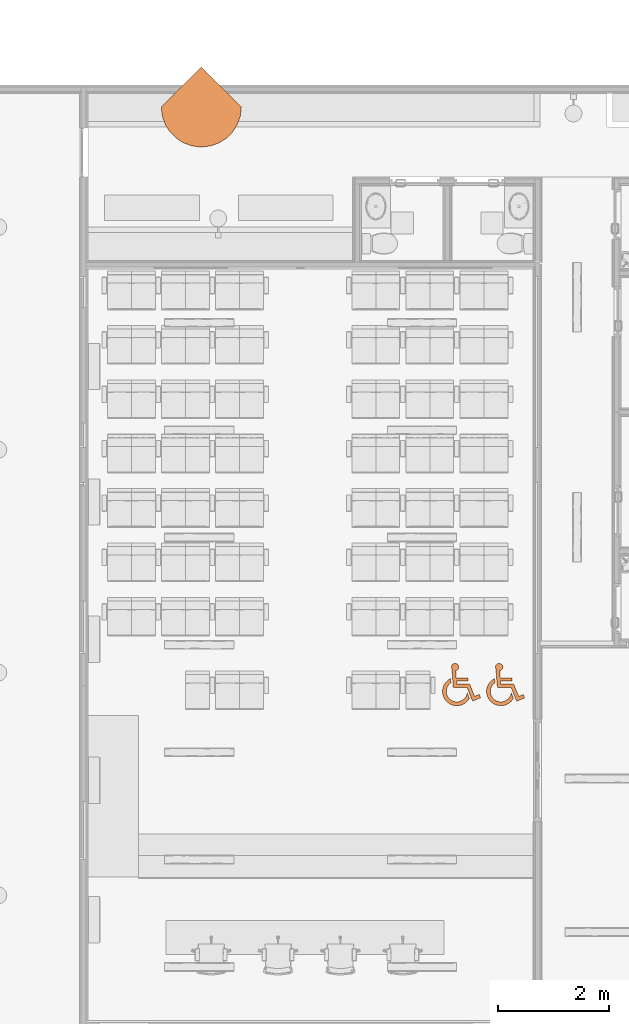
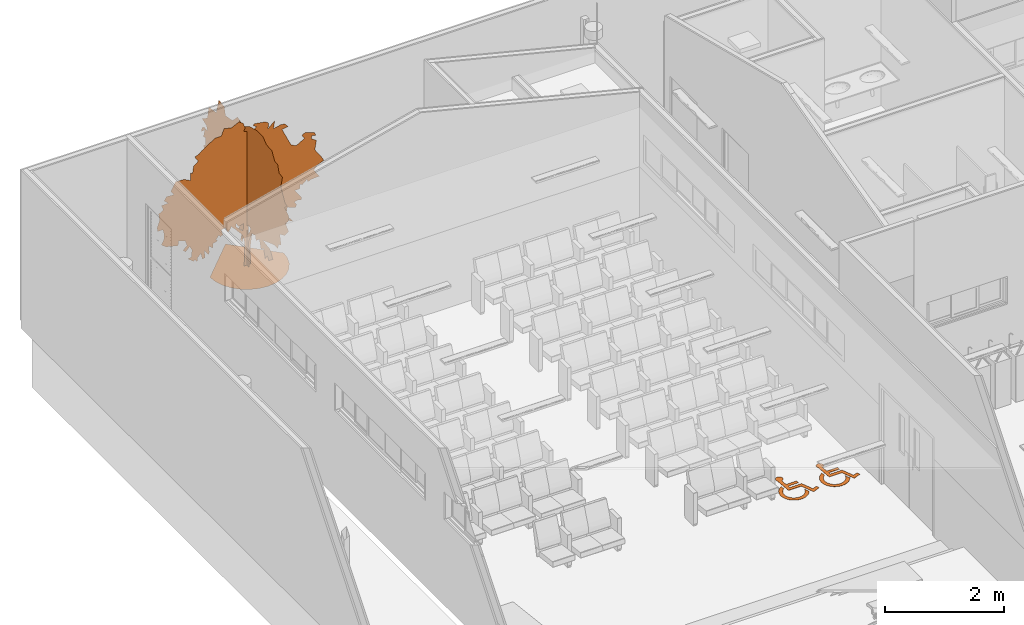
# One storey, part 154 of 155: 3 proxies.
"""IFC2X3 building model written with IfcOpenShell, lengths in metres."""

from ifc_helpers import new_model, entity, si_unit, converted_unit, derived_unit, direction, frame, frame_2d, origin, place, context, subcontext, project, spatial, polyline, circle_curve, parameter, trimmed, segment, composite_curve, outline, extrude, face_set, surface_model, source, transform, mapped, material, type_object, type_shapes, element, save


model = new_model("IFC2X3")

# Units and contexts
model_context = context("Model", 3, precision=1e-05, world=origin(), true_north=direction((6.12303176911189e-17, 1.0)))
body_context = subcontext(model_context, "Body", "Model", "MODEL_VIEW")
ifc_project = project(units=[si_unit("LENGTHUNIT", "METRE"), si_unit("AREAUNIT", "SQUARE_METRE"), si_unit("VOLUMEUNIT", "CUBIC_METRE"), converted_unit("PLANEANGLEUNIT", "DEGREE", entity("IfcRatioMeasure", 0.0174532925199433), si_unit("PLANEANGLEUNIT", "RADIAN"), dimensions=[0, 0, 0, 0, 0, 0, 0]), si_unit("MASSUNIT", "GRAM", prefix="KILO"), derived_unit("MASSDENSITYUNIT", [(si_unit("MASSUNIT", "GRAM", prefix="KILO"), 1), (si_unit("LENGTHUNIT", "METRE"), -3)]), si_unit("TIMEUNIT", "SECOND"), si_unit("FREQUENCYUNIT", "HERTZ"), si_unit("THERMODYNAMICTEMPERATUREUNIT", "DEGREE_CELSIUS"), derived_unit("THERMALTRANSMITTANCEUNIT", [(si_unit("MASSUNIT", "GRAM", prefix="KILO"), 1), (si_unit("THERMODYNAMICTEMPERATUREUNIT", "KELVIN"), -1), (si_unit("TIMEUNIT", "SECOND"), -3)]), derived_unit("VOLUMETRICFLOWRATEUNIT", [(si_unit("LENGTHUNIT", "METRE"), 3), (si_unit("TIMEUNIT", "SECOND"), -1)]), si_unit("ELECTRICCURRENTUNIT", "AMPERE"), si_unit("ELECTRICVOLTAGEUNIT", "VOLT"), si_unit("POWERUNIT", "WATT"), si_unit("FORCEUNIT", "NEWTON", prefix="KILO"), si_unit("ILLUMINANCEUNIT", "LUX"), si_unit("LUMINOUSFLUXUNIT", "LUMEN"), si_unit("LUMINOUSINTENSITYUNIT", "CANDELA"), derived_unit("USERDEFINED", [(si_unit("MASSUNIT", "GRAM", prefix="KILO"), -1), (si_unit("LENGTHUNIT", "METRE"), -2), (si_unit("TIMEUNIT", "SECOND"), 3), (si_unit("LUMINOUSFLUXUNIT", "LUMEN"), 1)]), derived_unit("LINEARVELOCITYUNIT", [(si_unit("LENGTHUNIT", "METRE"), 1), (si_unit("TIMEUNIT", "SECOND"), -1)]), si_unit("PRESSUREUNIT", "PASCAL"), derived_unit("USERDEFINED", [(si_unit("LENGTHUNIT", "METRE"), -2), (si_unit("MASSUNIT", "GRAM", prefix="KILO"), 1), (si_unit("TIMEUNIT", "SECOND"), -2)])], contexts=[model_context])

# Site, building, storey
site_placement = place(None, frame((26.9889013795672, -17.5624287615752, 0.0)))
site = spatial("IfcSite", under=ifc_project, at=site_placement, Name="Default", CompositionType="ELEMENT")
building_placement = place(site_placement, origin())
building = spatial("IfcBuilding", under=site, at=building_placement, Name="C. C. L. Monsenhor Antônio Sampaio", CompositionType="ELEMENT")
storey_placement = place(building_placement, frame((0.0, 0.0, 1.19999999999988)))
storey = spatial("IfcBuildingStorey", under=building, at=storey_placement, Name="Nível 1.2", CompositionType="ELEMENT", Elevation=1.19999999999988)

# Proxy
building_element_proxy_type = type_object("IfcBuildingElementProxyType", Name="Árvore menor - 3 metros", PredefinedType="NOTDEFINED")
shared_shape_1 = source(origin(), body_context, "Body", "SurfaceModel", [
    surface_model("IfcFaceBasedSurfaceModel", [(0.719553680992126, 6.28882015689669e-08, 5.41456997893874e-08), (0.000196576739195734, 0.719357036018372, 5.41456997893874e-08), (-0.719160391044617, 0.0, 5.41456997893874e-08), (0.700535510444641, -0.164828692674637, 5.41456997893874e-08), (-0.700142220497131, -0.164828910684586, 5.41456997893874e-08), (0.646374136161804, -0.316197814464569, 5.41456997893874e-08), (-0.645980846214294, -0.316197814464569, 5.41456997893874e-08), (-0.561012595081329, -0.44977058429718, 5.41456997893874e-08), (0.561405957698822, -0.44977058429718, 5.41456997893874e-08), (0.449967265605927, -0.561209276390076, 5.41456997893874e-08), (-0.449573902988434, -0.561209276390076, 5.41456997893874e-08), (-0.316001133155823, -0.646177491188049, 5.41456997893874e-08), (-0.164632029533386, -0.700338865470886, 5.41456997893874e-08), (0.000196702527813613, -0.719357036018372, 5.41456997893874e-08), (0.165025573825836, -0.700338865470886, 5.41456997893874e-08), (0.316394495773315, -0.646177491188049, 5.41456997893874e-08), (0.000196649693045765, -0.0301486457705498, 0.643486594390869), (0.000196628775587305, -0.0689838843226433, 4.2996833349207e-08), (0.000196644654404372, -0.0651004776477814, 0.526979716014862), (0.000196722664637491, 1.46502089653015, 0.849313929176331), (0.000196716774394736, 1.41065270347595, 0.732807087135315), (0.000196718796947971, 1.40676863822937, 0.80659575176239), (0.000196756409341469, 1.50774139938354, 1.91729387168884), (0.00019675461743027, 1.53492549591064, 1.81632111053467), (0.000196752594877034, 1.41453458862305, 1.92894374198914), (0.00019675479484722, 1.43783680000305, 1.96778017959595), (0.000196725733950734, 1.3057958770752, 1.19106857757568), (0.000196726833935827, 1.45725509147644, 1.00077307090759), (0.000196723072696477, 1.36016639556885, 1.02019121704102), (0.000196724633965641, 1.44172086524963, 0.950286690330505), (0.000196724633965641, 1.5193914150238, 0.83377984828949), (0.000196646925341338, -0.162189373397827, 0.748341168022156), (0.000196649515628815, -0.111703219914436, 0.759993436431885), (0.000196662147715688, 0.230050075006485, 0.670670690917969), (0.000196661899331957, 0.28442053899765, 0.581350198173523), (0.000196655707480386, 0.109660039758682, 0.635718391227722), (0.000196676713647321, 0.587336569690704, 0.624068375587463), (0.000196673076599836, 0.544618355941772, 0.56581382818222), (0.000196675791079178, 0.517434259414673, 0.697854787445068), (0.000196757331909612, 1.32909590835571, 2.21632576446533), (0.000196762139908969, 1.51162328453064, 2.1037029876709), (0.000196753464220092, 1.35628233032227, 2.04545072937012), (0.000196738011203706, 1.5465755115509, 1.24155488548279), (0.000196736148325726, 1.56210959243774, 1.15611627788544), (0.000196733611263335, 1.47667323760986, 1.19883445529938), (0.000196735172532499, 1.47278917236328, 1.25708911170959), (0.000196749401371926, 1.32521402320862, 1.9561279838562), (0.000196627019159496, -0.566079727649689, 0.68620477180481), (0.000196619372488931, -0.62045020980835, 0.511445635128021), (0.00019661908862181, -0.694236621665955, 0.612418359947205), (0.000196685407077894, 0.820350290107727, 0.56581382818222), (0.000196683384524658, 0.83976843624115, 0.468725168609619), (0.000196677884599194, 0.665009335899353, 0.546397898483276), (0.000196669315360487, 0.354325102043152, 0.725041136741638), (0.000196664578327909, 0.299954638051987, 0.647370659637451), (0.000196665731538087, 0.261118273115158, 0.744459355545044), (0.000196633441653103, -1.26900262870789, 1.9561279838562), (0.000196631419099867, -1.36609132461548, 2.03379838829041), (0.000196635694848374, -1.28842092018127, 2.06098481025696), (0.000196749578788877, 1.46113683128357, 1.75806652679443), (0.00019674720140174, 1.39511629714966, 1.77748467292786), (0.000196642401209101, -0.286463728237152, 0.783293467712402), (0.000196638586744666, -0.309763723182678, 0.690088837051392), (0.000196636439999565, -0.422388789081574, 0.787177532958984), (0.000196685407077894, 0.781516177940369, 0.624068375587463), (0.00019665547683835, 0.171796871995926, 0.534745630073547), (0.000196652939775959, 0.218399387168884, 0.379404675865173), (0.000196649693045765, 0.140728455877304, 0.387170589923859), (0.000196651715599, 0.129077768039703, 0.472609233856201), (0.000196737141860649, 1.41841865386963, 1.40466411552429), (0.000196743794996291, 1.53104143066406, 1.45903230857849), (0.000196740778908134, 1.53880956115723, 1.34640953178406), (0.000196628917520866, -0.476756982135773, 0.616300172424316), (0.000196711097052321, 1.14657085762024, 0.938636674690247), (0.000196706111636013, 1.13103445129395, 0.794945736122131), (0.000196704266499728, 1.0688980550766, 0.826013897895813), (0.000196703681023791, 0.998993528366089, 0.911452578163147), (0.000196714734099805, 1.29802774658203, 0.83377984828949), (0.000196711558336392, 1.25530956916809, 0.791061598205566), (0.000196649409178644, -1.14472990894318, 2.30565984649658), (0.000196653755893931, -1.20298223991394, 2.53865986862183), (0.00019665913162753, -1.09035946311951, 2.55031904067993), (0.000196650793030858, 0.0824750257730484, 0.511445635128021), (0.000196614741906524, -0.744723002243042, 0.542513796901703), (0.000196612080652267, -0.876763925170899, 0.651252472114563), (0.000196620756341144, -0.783559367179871, 0.802711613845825), (0.000196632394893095, -0.546661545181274, 0.837663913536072), (0.00019663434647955, 0.0552902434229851, 4.67004684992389e-08), (0.000196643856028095, 0.0358722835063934, 0.3483364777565), (0.000196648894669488, 0.0397559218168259, 0.511445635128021), (0.000196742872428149, 1.39900050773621, 1.62602560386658), (0.000196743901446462, 1.46113683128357, 1.56777320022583), (0.000196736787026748, 1.36404813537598, 1.47456638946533), (0.000196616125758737, -1.27288683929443, 1.38136175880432), (0.000196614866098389, -1.41269589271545, 1.54835505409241), (0.000196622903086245, -1.30007093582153, 1.64932781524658), (0.000196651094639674, -0.123353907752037, 0.829895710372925), (0.00019674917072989, 0.758213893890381, 2.79886462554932), (0.000196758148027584, 0.940741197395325, 2.82604639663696), (0.000196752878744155, 1.03006394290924, 2.51536448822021), (0.000196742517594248, 0.715495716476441, 2.63963713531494), (0.000196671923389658, 0.466947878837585, 0.643486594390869), (0.000196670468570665, 0.408693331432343, 0.682320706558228), (0.000196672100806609, 0.416461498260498, 0.725041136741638), (0.000196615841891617, -1.07482538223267, 1.07456173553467), (0.00019661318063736, -1.16026398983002, 1.11339584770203), (0.00019662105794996, -1.11366174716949, 1.3075754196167), (0.000196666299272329, -1.03598894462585, 2.70954624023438), (0.000196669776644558, -0.950552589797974, 2.6978873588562), (0.000196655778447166, -0.0029635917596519, 0.80659575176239), (0.000196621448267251, -1.38939368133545, 1.73476649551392), (0.00019662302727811, -1.43211185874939, 1.85127333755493), (0.000196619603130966, -0.923366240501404, 0.973588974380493), (0.000196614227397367, -1.043757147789, 0.973588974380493), (0.000196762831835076, 1.27860945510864, 2.47652354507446), (0.000196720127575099, 0.121310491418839, 2.77943267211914), (0.000196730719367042, 0.30383873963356, 2.86100094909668), (0.00019673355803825, 0.48636380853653, 2.68236446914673), (0.000196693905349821, 0.855302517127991, 0.798827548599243), (0.000196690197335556, 0.863070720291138, 0.662904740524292), (0.000196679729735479, -0.841811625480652, 2.86877373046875), (0.000196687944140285, -0.66316838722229, 2.87652354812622), (0.000196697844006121, 0.894138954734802, 0.872616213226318), (0.000196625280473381, -0.760257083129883, 0.919218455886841), (0.000196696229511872, -0.542777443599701, 2.97361471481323), (0.000196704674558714, -0.356366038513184, 2.97750110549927), (0.000196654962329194, -0.0573334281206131, 0.86096619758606), (0.000196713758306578, -0.11170299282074, 2.91536449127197), (-0.0506033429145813, 7.76747955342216e-08, 0.0), (0.0350266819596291, 2.71163724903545e-08, 0.785434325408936), (0.0291209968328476, 3.77584202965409e-08, 0.611220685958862), (-0.0476503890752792, 6.66338866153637e-08, 0.18307096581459), (-0.0446976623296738, 4.78491046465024e-08, 0.496063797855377), (0.0409321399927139, 4.0234105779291e-08, 0.561022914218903), (0.7643582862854, -3.35572835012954e-09, 0.761811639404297), (0.906090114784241, 1.18483896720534e-09, 0.581693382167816), (0.785026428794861, 2.42872803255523e-09, 0.649607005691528), (0.743687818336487, 1.46195725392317e-08, 0.475393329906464), (0.717112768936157, 9.26927548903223e-09, 0.584645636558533), (-0.0830835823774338, 4.03750127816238e-08, 0.649607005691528), (-0.0801308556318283, 3.53179669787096e-08, 0.732284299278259), (0.0527432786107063, 2.40540978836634e-08, 0.823818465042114), (-0.0594615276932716, 3.07186469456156e-08, 0.79429119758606), (0.350971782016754, 1.57699369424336e-08, 0.744095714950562), (0.312585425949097, 2.2199781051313e-08, 0.664370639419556), (0.283058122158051, 1.57465730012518e-08, 0.79429119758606), (0.412980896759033, -1.01339124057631e-07, 2.66338713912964), (0.542901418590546, -1.14058221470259e-07, 2.78150085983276), (0.519278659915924, -1.0369776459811e-07, 2.62500081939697), (-0.201194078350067, 3.72659193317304e-08, 0.788386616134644), (-0.213005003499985, 3.33822835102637e-08, 0.862204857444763), (-0.301587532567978, 3.51422847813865e-08, 0.897638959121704), (-0.957099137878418, 8.82593452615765e-08, 0.487204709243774), (-0.965958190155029, 9.35745769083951e-08, 0.404527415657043), (-1.01024916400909, 9.1990714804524e-08, 0.463581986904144), (-0.661823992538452, 6.44407038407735e-08, 0.670275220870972), (-0.652964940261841, 6.95093406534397e-08, 0.578741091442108), (-0.732689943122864, 6.92982032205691e-08, 0.640747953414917), (-0.729737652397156, 7.63850228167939e-08, 0.519684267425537), (-0.744501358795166, 8.00225294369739e-08, 0.469488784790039), (-0.827178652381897, 7.62443453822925e-08, 0.593504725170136), (-1.04273097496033, 9.46423012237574e-08, 0.442913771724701), (-1.1460764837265, 9.40559416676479e-08, 0.52854335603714), (-1.07521053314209, 8.99023059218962e-08, 0.546259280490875), (0.740735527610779, -1.14433898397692e-07, 2.64272822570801), (0.805696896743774, -1.13049578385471e-07, 2.5718418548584), (0.687585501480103, -1.06478671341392e-07, 2.54822817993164), (1.30471294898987, -7.07988881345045e-08, 1.49704815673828), (1.41101067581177, -6.57654748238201e-08, 1.33464586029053), (1.25156299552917, -5.82677461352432e-08, 1.32578680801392), (1.3194765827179, -1.17379808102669e-07, 2.2677166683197), (1.34014479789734, -1.14411175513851e-07, 2.20275755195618), (1.2663266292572, -1.12064585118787e-07, 2.2175211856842), (1.13345152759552, -1.12768214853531e-07, 2.32677352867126), (-1.09883096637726, -3.22418300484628e-09, 2.12598476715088), (-1.09883096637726, -1.23760949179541e-08, 2.27952350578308), (-1.05454006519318, -1.29041409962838e-08, 2.25590532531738), (-0.325210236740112, 3.89909223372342e-08, 0.850393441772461), (-0.366548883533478, 4.37897866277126e-08, 0.800197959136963), (-0.416744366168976, 3.92961479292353e-08, 0.912402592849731), (-0.596862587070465, 5.79052455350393e-08, 0.732284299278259), (-0.56733531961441, 5.87263836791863e-08, 0.696850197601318), (0.575380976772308, 1.42325958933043e-08, 0.605316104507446), (0.52518549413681, 2.20587116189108e-08, 0.510827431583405), (0.436601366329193, 1.92428694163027e-08, 0.623032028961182), (-1.62442206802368, 4.50938791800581e-08, 1.70078688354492), (-1.65985624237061, 4.04827407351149e-08, 1.80413464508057), (-1.53288797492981, 3.45806925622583e-08, 1.81003922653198), (0.666917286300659, -1.12263217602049e-07, 2.66043266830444), (-0.204146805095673, 2.91231916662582e-08, 0.927166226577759), (-0.0653669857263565, 2.60488712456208e-08, 0.876968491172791), (-0.945287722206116, -3.03516004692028e-08, 2.46850077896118), (-1.01320138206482, -3.38947828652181e-08, 2.57775079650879), (-0.930524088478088, -3.94447866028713e-08, 2.61022817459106), (0.073412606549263, 7.22538890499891e-08, 9.54661638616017e-08), (0.0645544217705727, 5.50413825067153e-08, 0.295275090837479), (0.102940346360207, 3.3299784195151e-08, 0.631888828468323), (0.0704594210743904, 3.20795553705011e-08, 0.676182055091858), (0.167901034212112, 2.41243261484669e-08, 0.738188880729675), (0.0940817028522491, 2.43590982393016e-08, 0.788386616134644), (1.0714447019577, -3.20906915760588e-08, 1.01870031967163), (1.05668106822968, -2.82775092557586e-08, 0.965552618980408), (0.997626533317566, -2.72800088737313e-08, 0.992125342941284), (0.935617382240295, -3.74175120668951e-08, 1.20767766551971), (1.42577445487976, -9.19304814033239e-08, 1.76279603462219), (1.50254709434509, -8.75425305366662e-08, 1.63287547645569), (1.36967206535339, -7.83902501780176e-08, 1.57677090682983), (1.12164243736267, -1.05564125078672e-07, 2.21456656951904), (1.0714447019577, -1.08473901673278e-07, 2.30020523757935), (1.25451528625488, -1.08380263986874e-07, 2.16437123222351), (-1.18741509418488, 8.63588961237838e-08, 0.687993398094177), (-1.24351741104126, 8.59952520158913e-08, 0.735236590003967), (-1.16379240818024, 7.79343457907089e-08, 0.812007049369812), (-1.11064238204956, 7.80752571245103e-08, 0.770668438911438), (1.1895538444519, -5.39731990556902e-08, 1.29921183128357), (1.17183791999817, -5.65427474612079e-08, 1.35531640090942), (-0.466942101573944, 4.88820602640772e-08, 0.788386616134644), (-0.514185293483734, 5.27072883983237e-08, 0.758859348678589), (-0.540760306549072, 5.07009261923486e-08, 0.812007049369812), (-0.493517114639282, 4.33559250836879e-08, 0.900591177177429), (0.666917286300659, 7.76747955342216e-09, 0.646654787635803), (-1.32324248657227, 7.59282088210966e-08, 0.96259807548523), (-1.33800612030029, 8.2205485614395e-08, 0.868111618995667), (-1.57422658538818, 8.91870765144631e-08, 0.924213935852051), (0.923806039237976, -2.29972802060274e-08, 0.974409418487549), (0.971051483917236, -2.13664606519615e-08, 0.912402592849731), (0.947428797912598, -1.6637937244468e-08, 0.850393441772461), (0.790933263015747, -1.36692321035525e-08, 0.915354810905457), (-0.809462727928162, 8.47979821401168e-08, 0.437006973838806), (-0.868517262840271, 8.77313912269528e-08, 0.431102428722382), (-0.892140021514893, 8.15479773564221e-08, 0.55216607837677), (0.1295151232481, -9.84525294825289e-08, 2.82284194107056), (0.138373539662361, -1.00951622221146e-07, 2.85827378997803), (0.359830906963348, -1.08519806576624e-07, 2.82284194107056), (0.191523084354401, -9.85229851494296e-08, 2.77854638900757), (-1.63328112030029, 6.94168421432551e-08, 1.29921183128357), (-1.73367441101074, 7.39811617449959e-08, 1.29625954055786), (-1.74548575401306, 6.95693401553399e-08, 1.37893676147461), (1.03896514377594, -4.68627426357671e-08, 1.29035495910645), (1.03010609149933, -4.17236501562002e-08, 1.21062995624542), (-0.49646940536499, -7.14418426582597e-08, 2.82875088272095), (-0.443319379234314, -8.16850250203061e-08, 2.96161457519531), (-0.298635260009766, -8.60734350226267e-08, 2.92913719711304), (-1.60965843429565, 3.353660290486e-08, 1.88385972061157), (-1.56241524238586, 2.72475098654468e-08, 1.954725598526), (-1.41772887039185, 2.14511668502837e-08, 1.94586654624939), (-0.159855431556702, 3.19391010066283e-08, 0.847441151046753), (-1.66280838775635, 8.86593477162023e-08, 0.99803217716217), (-1.61556519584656, 8.11382117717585e-08, 1.08956627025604), (-1.69528794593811, 5.92793389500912e-08, 1.51476408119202), (-1.0693036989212, 8.10202572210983e-08, 0.690945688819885), (-1.60965843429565, 7.38402504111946e-08, 1.20767766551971), (-1.71595848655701, 5.22629706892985e-08, 1.64763911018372), (-1.47678558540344, 1.87525969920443e-08, 2.03444834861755), (-1.38524931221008, 4.89556973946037e-09, 2.19980293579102), (-1.22284687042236, -1.67524823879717e-09, 2.19094620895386), (1.35490843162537, -1.08544582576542e-07, 2.09350520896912), (1.32538116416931, -9.61661638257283e-08, 1.90748022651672), (0.427744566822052, -1.0867253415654e-07, 2.77559191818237), (-0.153949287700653, -9.66216264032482e-08, 3.00000089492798), (-0.0712722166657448, -9.6891624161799e-08, 2.94388745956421), (-0.0328865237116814, -9.20577572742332e-08, 2.83463715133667), (-0.059461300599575, -8.68479795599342e-08, 2.76672821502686), (0.102940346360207, -9.16588896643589e-08, 2.72834189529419), (1.08620833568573, -4.8223880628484e-08, 1.27854361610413), (0.965144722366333, -9.32675277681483e-08, 2.12303247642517), (0.867703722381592, -9.16482082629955e-08, 2.16732337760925), (0.832271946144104, -9.41473010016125e-08, 2.23523711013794), (0.785026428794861, -9.80661711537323e-08, 2.33563708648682), (-0.620485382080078, -6.58450222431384e-08, 2.82579641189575), (-0.747453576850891, -5.53670656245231e-08, 2.7431145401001), (-0.841942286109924, -4.77168345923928e-08, 2.6840463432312), (-1.03682414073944, -2.19504617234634e-08, 2.39468261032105), (-1.19627189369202, 7.33702514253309e-08, 0.912402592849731)], [face_set([[[0, 1, 2]], [[3, 0, 2]], [[3, 2, 4]], [[5, 3, 4]], [[5, 4, 6]], [[5, 6, 7]], [[8, 5, 7]], [[9, 8, 7]], [[9, 7, 10]], [[9, 10, 11]], [[9, 11, 12]], [[9, 12, 13]], [[9, 13, 14]], [[9, 14, 15]], [[16, 17, 18]], [[19, 20, 21]], [[22, 23, 24]], [[25, 22, 24]], [[26, 27, 28]], [[29, 30, 19]], [[16, 18, 31]], [[32, 16, 31]], [[33, 34, 35]], [[36, 37, 38]], [[39, 40, 41]], [[42, 43, 44]], [[45, 42, 44]], [[46, 25, 24]], [[47, 48, 49]], [[50, 51, 52]], [[53, 54, 55]], [[56, 57, 58]], [[24, 59, 60]], [[61, 62, 63]], [[64, 50, 52]], [[65, 66, 67]], [[65, 67, 68]], [[69, 70, 71]], [[63, 72, 47]], [[73, 74, 75]], [[73, 75, 76]], [[69, 71, 45]], [[77, 78, 73]], [[79, 80, 81]], [[65, 68, 82]], [[35, 65, 82]], [[49, 83, 84]], [[49, 84, 85]], [[49, 85, 86]], [[47, 49, 86]], [[63, 47, 86]], [[87, 17, 16]], [[88, 87, 16]], [[89, 88, 16]], [[90, 91, 92]], [[45, 44, 26]], [[69, 45, 26]], [[93, 94, 95]], [[96, 32, 31]], [[97, 98, 99]], [[100, 97, 99]], [[38, 101, 102]], [[38, 102, 103]], [[46, 24, 60]], [[96, 31, 61]], [[104, 105, 106]], [[81, 107, 108]], [[64, 52, 36]], [[35, 82, 89]], [[35, 89, 16]], [[35, 16, 109]], [[110, 111, 56]], [[95, 110, 56]], [[112, 113, 104]], [[33, 35, 109]], [[55, 33, 109]], [[99, 114, 39]], [[115, 116, 117]], [[118, 119, 64]], [[118, 64, 36]], [[118, 36, 38]], [[29, 19, 21]], [[29, 21, 77]], [[28, 29, 77]], [[28, 77, 73]], [[26, 28, 73]], [[92, 69, 26]], [[106, 93, 95]], [[108, 120, 121]], [[26, 73, 76]], [[112, 104, 106]], [[122, 118, 38]], [[123, 112, 106]], [[56, 58, 79]], [[122, 38, 103]], [[121, 124, 125]], [[92, 26, 76]], [[92, 76, 122]], [[99, 39, 41]], [[99, 41, 46]], [[100, 99, 46]], [[117, 100, 46]], [[92, 122, 103]], [[90, 92, 103]], [[60, 90, 103]], [[46, 60, 103]], [[117, 46, 103]], [[117, 103, 53]], [[117, 53, 55]], [[117, 55, 109]], [[117, 109, 126]], [[115, 117, 126]], [[127, 115, 126]], [[125, 127, 126]], [[121, 125, 126]], [[108, 121, 126]], [[81, 108, 126]], [[79, 81, 126]], [[56, 79, 126]], [[95, 56, 126]], [[106, 95, 126]], [[123, 106, 126]], [[86, 123, 126]], [[86, 126, 96]], [[86, 96, 61]], [[86, 61, 63]], [[128, 129, 130]], [[129, 128, 131]], [[129, 131, 132]], [[128, 130, 133]], [[134, 135, 136]], [[136, 137, 138]], [[129, 132, 139]], [[140, 141, 129]], [[140, 129, 139]], [[141, 140, 142]], [[143, 144, 145]], [[146, 147, 148]], [[140, 139, 149]], [[150, 140, 149]], [[150, 149, 151]], [[152, 153, 154]], [[155, 156, 157]], [[158, 159, 160]], [[157, 158, 160]], [[161, 162, 163]], [[164, 165, 166]], [[167, 168, 169]], [[170, 171, 172]], [[173, 170, 172]], [[174, 175, 176]], [[177, 178, 179]], [[180, 181, 155]], [[182, 183, 184]], [[185, 186, 187]], [[188, 164, 166]], [[154, 161, 163]], [[189, 150, 151]], [[141, 142, 190]], [[191, 192, 193]], [[194, 128, 133]], [[195, 194, 133]], [[196, 195, 133]], [[196, 133, 197]], [[198, 196, 197]], [[198, 197, 199]], [[200, 201, 202]], [[203, 200, 202]], [[204, 205, 206]], [[151, 177, 179]], [[207, 208, 173]], [[207, 173, 172]], [[207, 172, 209]], [[210, 211, 212]], [[213, 210, 212]], [[169, 214, 215]], [[216, 217, 218]], [[219, 216, 218]], [[136, 138, 220]], [[134, 136, 220]], [[221, 222, 223]], [[167, 169, 215]], [[148, 188, 166]], [[203, 202, 224]], [[225, 226, 227]], [[224, 225, 227]], [[160, 228, 229]], [[160, 229, 230]], [[231, 232, 233]], [[234, 231, 233]], [[235, 236, 237]], [[238, 239, 203]], [[240, 241, 242]], [[187, 243, 244]], [[187, 244, 245]], [[190, 246, 189]], [[223, 247, 248]], [[221, 223, 248]], [[152, 154, 163]], [[235, 237, 249]], [[230, 152, 163]], [[230, 163, 250]], [[160, 230, 250]], [[221, 248, 251]], [[249, 252, 185]], [[253, 254, 255]], [[245, 253, 255]], [[245, 255, 174]], [[209, 256, 257]], [[203, 224, 227]], [[233, 258, 146]], [[234, 233, 146]], [[242, 259, 260]], [[242, 260, 261]], [[242, 261, 262]], [[240, 242, 262]], [[145, 198, 199]], [[263, 234, 146]], [[215, 264, 238]], [[207, 209, 257]], [[265, 207, 257]], [[257, 204, 206]], [[265, 257, 206]], [[265, 206, 167]], [[265, 167, 215]], [[265, 215, 238]], [[266, 265, 238]], [[266, 238, 203]], [[157, 160, 250]], [[157, 250, 213]], [[182, 184, 143]], [[220, 182, 143]], [[134, 220, 143]], [[227, 134, 143]], [[227, 143, 145]], [[203, 227, 145]], [[266, 203, 145]], [[266, 145, 199]], [[266, 199, 141]], [[266, 141, 190]], [[266, 190, 189]], [[267, 266, 189]], [[268, 267, 189]], [[166, 268, 189]], [[148, 166, 189]], [[146, 148, 189]], [[263, 146, 189]], [[262, 263, 189]], [[240, 262, 189]], [[269, 240, 189]], [[270, 269, 189]], [[271, 270, 189]], [[193, 271, 189]], [[191, 193, 189]], [[272, 191, 189]], [[176, 272, 189]], [[174, 176, 189]], [[174, 189, 151]], [[174, 151, 179]], [[174, 179, 219]], [[245, 174, 219]], [[187, 245, 219]], [[185, 187, 219]], [[249, 185, 219]], [[235, 249, 219]], [[251, 235, 219]], [[221, 251, 219]], [[273, 221, 219]], [[273, 219, 218]], [[212, 273, 218]], [[213, 212, 218]], [[157, 213, 218]], [[157, 218, 180]], [[157, 180, 155]]])]),
])
type_shapes(building_element_proxy_type, [shared_shape_1])
proxy_placement = place(storey_placement, frame((-11.9541194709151, -7.19622180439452, -0.1)))
element("IfcBuildingElementProxy", 1, at=proxy_placement, inside=storey, type_object=building_element_proxy_type, Name="RPC Árvore - Tropical:Árvore menor - 3 metros", ObjectType="Árvore menor - 3 metros", context=body_context, shape_type="MappedRepresentation", body=[
    mapped(shared_shape_1, transform((0.0, 0.0, 0.0), scale=1.0)),
])

# Space
space_placement = place(storey_placement, origin())
space = spatial("IfcSpace", under=storey, at=space_placement, Name="94", CompositionType="ELEMENT", InteriorOrExteriorSpace="INTERNAL")

# Proxies
ifc_material = material(Name="Paint - White")
shared_shape_2 = source(origin(), body_context, "Body", "SweptSolid", [
    extrude(outline(composite_curve([segment(polyline([(-0.305252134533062, -0.212171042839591), (0.027902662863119, -0.212171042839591)]), True, "CONTINUOUS"), segment(polyline([(0.027902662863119, -0.212171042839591), (0.0466659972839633, 0.0339917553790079)]), True, "CONTINUOUS"), segment(polyline([(0.0466659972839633, 0.0339917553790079), (0.298723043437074, 0.114768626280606)]), True, "CONTINUOUS"), segment(polyline([(0.298723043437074, 0.114768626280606), (0.252765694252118, 0.261113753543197)]), True, "CONTINUOUS"), segment(polyline([(0.252765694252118, 0.261113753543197), (0.189632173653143, 0.244700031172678)]), True, "CONTINUOUS"), segment(polyline([(0.189632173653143, 0.244700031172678), (0.21715898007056, 0.15704454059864)]), True, "CONTINUOUS"), segment(polyline([(0.21715898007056, 0.15704454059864), (-0.0149646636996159, 0.0826557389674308)]), True, "CONTINUOUS"), segment(polyline([(-0.0149646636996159, 0.0826557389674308), (-0.0324713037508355, -0.14702004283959)]), True, "CONTINUOUS"), segment(polyline([(-0.0324713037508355, -0.14702004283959), (-0.0797693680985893, -0.14702004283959)]), True, "CONTINUOUS"), segment(polyline([(-0.0797693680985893, -0.14702004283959), (-0.0642389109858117, 0.0567294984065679)]), True, "CONTINUOUS"), segment(polyline([(-0.0642389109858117, 0.0567294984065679), (-0.125753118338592, 0.0614183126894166)]), True, "CONTINUOUS"), segment(polyline([(-0.125753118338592, 0.0614183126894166), (-0.141640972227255, -0.147020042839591)]), True, "CONTINUOUS"), segment(polyline([(-0.141640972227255, -0.147020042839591), (-0.268758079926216, -0.14702004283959)]), True, "CONTINUOUS"), segment(trimmed(circle_curve(frame_2d((-0.334534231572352, -0.152972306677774), x_axis=(0.0760028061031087, 0.997107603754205)), 0.0660449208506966), [parameter(279.529611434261)], [parameter(210.677710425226)], True, "PARAMETER"), True, "CONTINUOUS")], self_intersect=False)), frame((0.183559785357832, -7.39795152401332e-05, 0.0), z_axis=(0.0, 0.0, 1.0), x_axis=(0.0760028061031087, -0.997107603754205, 0.0)), (0.0, 0.0, 1.0), 0.0015875),
    extrude(outline(composite_curve([segment(trimmed(circle_curve(frame_2d((-0.0477134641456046, -0.0579819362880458), x_axis=(1.0, 0.0)), 0.257270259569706), [parameter(116.094015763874)], [parameter(331.008057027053)], True, "PARAMETER"), True, "CONTINUOUS"), segment(polyline([(0.177317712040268, -0.182677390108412), (0.138643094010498, -0.0875665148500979)]), True, "CONTINUOUS"), segment(trimmed(circle_curve(frame_2d((-0.0477134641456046, -0.0579819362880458), x_axis=(1.0, 0.0)), 0.188690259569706), [parameter(124.684209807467)], [parameter(350.979426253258)], True, "PARAMETER"), False, "CONTINUOUS"), segment(polyline([(-0.155088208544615, 0.0971782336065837), (-0.160872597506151, 0.173065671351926)]), True, "CONTINUOUS")], self_intersect=False)), frame((0.085435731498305, -0.0567862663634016, 0.0)), (0.0, 0.0, 1.0), 0.0015875),
])
for number, where, name in (
    (2, (-7.40292741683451, -17.5759793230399, 0.0), "M_Parking Symbol - ADA:M_Parking Symbol - ADA"),
    (3, (-6.61152314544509, -17.5759793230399, 0.0), "M_Parking Symbol - ADA:M_Parking Symbol - ADA"),
):
    element("IfcBuildingElementProxy", number, at=place(space_placement, frame(where)), inside=space, material=ifc_material, Name=name, ObjectType="M_Parking Symbol - ADA", context=body_context, shape_type="MappedRepresentation", body=[
        mapped(shared_shape_2, transform((0.0, 0.0, 0.0), scale=1.0)),
    ])

save(model, "model.ifc")
